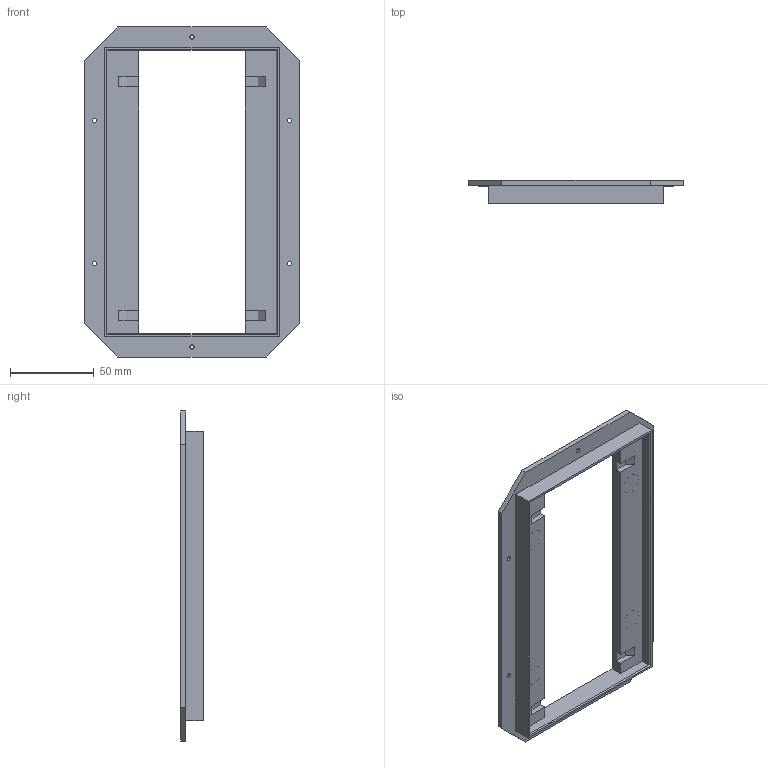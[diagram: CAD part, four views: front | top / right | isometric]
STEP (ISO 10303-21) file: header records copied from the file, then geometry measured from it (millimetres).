
FILE_DESCRIPTION(/* description */ (''),/* implementation_level */ '2;1');
FILE_NAME(/* name */ 'Wall Mount Display_Flush Mount V2 v6.step',/* time_stamp */ '2025-09-25T08:46:48+10:00',/* author */ (''),/* organization */ (''),/* preprocessor_version */ 'ST-DEVELOPER v20.1',/* originating_system */ 'Autodesk Translation Framework v14.10.0.0',/* authorisation */ '');
FILE_SCHEMA (('AUTOMOTIVE_DESIGN { 1 0 10303 214 3 1 1 }'));
Length unit declared in the file: millimetre
Products named in the file (1): Wall Mount Display_Flush Mount V2
Bounding box: 128.71 x 13.5 x 197.55 mm (x, y, z)
Volume: 74728.9 mm3; surface area: 43090.9 mm2
Topology: 1 solids, 1 shells, 57 faces, 146 edges, 96 vertices
Faces by surface type: plane 47, cylinder 10
Full cylindrical faces by diameter (mm): 2.5 x6, 12.3 x4
Entity records: 1765 total; most frequent: CARTESIAN_POINT 300, ORIENTED_EDGE 292, DIRECTION 282, EDGE_CURVE 146, LINE 126, VECTOR 126, VERTEX_POINT 96, AXIS2_PLACEMENT_3D 78
